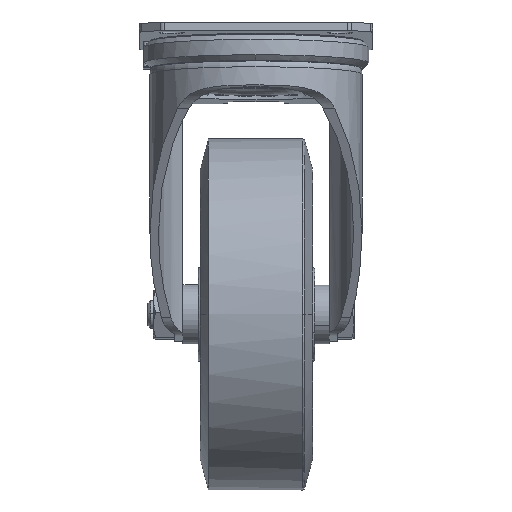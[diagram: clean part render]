
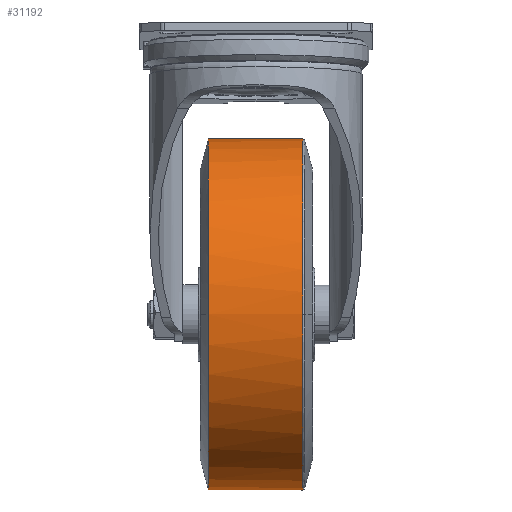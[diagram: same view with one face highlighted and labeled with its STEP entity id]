
A CAD part, front view. The second image highlights one B-rep face of the part: STEP entity #31192.
In plain terms, the highlighted cylindrical face has radius 62.5 mm (diameter 125 mm), a partial arc.
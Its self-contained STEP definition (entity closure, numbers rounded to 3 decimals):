
#654 = CARTESIAN_POINT ( 'NONE',  ( 103.239, 32.576, -105.767 ) ) ;
#683 = ORIENTED_EDGE ( 'NONE', *, *, #18647, .T. ) ;
#2452 = VERTEX_POINT ( 'NONE', #17990 ) ;
#2628 = VERTEX_POINT ( 'NONE', #29669 ) ;
#2682 = B_SPLINE_CURVE_WITH_KNOTS ( 'NONE', 3,
 ( #22656, #3312, #28177, #11650, #30926, #14420, #33686, #17200, #654, #19994, #3431, #22771, #6201, #25540, #8977, #28285, #11767, #31045 ),
 .UNSPECIFIED., .F., .F.,
 ( 4, 2, 2, 2, 2, 2, 2, 2, 4 ),
 ( 0., 0.125, 0.25, 0.375, 0.5, 0.625, 0.75, 0.875, 1. ),
 .UNSPECIFIED. ) ;
#3035 = CARTESIAN_POINT ( 'NONE',  ( 69.614, 73.877, -121.18 ) ) ;
#3312 = CARTESIAN_POINT ( 'NONE',  ( 103.239, 69.787, -121.18 ) ) ;
#3431 = CARTESIAN_POINT ( 'NONE',  ( 103.239, 24.183, -96.804 ) ) ;
#3560 = AXIS2_PLACEMENT_3D ( 'NONE', #26393, #9839, #12606 ) ;
#3623 = B_SPLINE_CURVE_WITH_KNOTS ( 'NONE', 3,
 ( #11895, #28427, #6454, #25784, #9210, #28538, #12006, #31274, #14786, #34043, #17563 ),
 .UNSPECIFIED., .F., .F.,
 ( 4, 1, 1, 1, 1, 1, 1, 1, 4 ),
 ( 0., 0.125, 0.25, 0.375, 0.5, 0.625, 0.75, 0.875, 1. ),
 .UNSPECIFIED. ) ;
#5596 = CARTESIAN_POINT ( 'NONE',  ( 103.239, 73.877, -121.18 ) ) ;
#5701 = VERTEX_POINT ( 'NONE', #3035 ) ;
#5994 = DIRECTION ( 'NONE',  ( -1., 0., 0. ) ) ;
#6201 = CARTESIAN_POINT ( 'NONE',  ( 103.239, 17.7, -86.377 ) ) ;
#6454 = CARTESIAN_POINT ( 'NONE',  ( 103.239, 61.606, 3.014 ) ) ;
#8977 = CARTESIAN_POINT ( 'NONE',  ( 103.239, 13.376, -74.885 ) ) ;
#9210 = CARTESIAN_POINT ( 'NONE',  ( 103.239, 38.93, -6.378 ) ) ;
#9411 = ORIENTED_EDGE ( 'NONE', *, *, #24684, .F. ) ;
#9839 = DIRECTION ( 'NONE',  ( -1., 0., 0. ) ) ;
#11185 = VECTOR ( 'NONE', #13179, 1000. ) ;
#11427 = CARTESIAN_POINT ( 'NONE',  ( 103.239, 73.877, -121.18 ) ) ;
#11650 = CARTESIAN_POINT ( 'NONE',  ( 103.239, 57.672, -119.181 ) ) ;
#11767 = CARTESIAN_POINT ( 'NONE',  ( 103.239, 11.377, -62.771 ) ) ;
#11895 = CARTESIAN_POINT ( 'NONE',  ( 103.239, 73.877, 3.82 ) ) ;
#12006 = CARTESIAN_POINT ( 'NONE',  ( 103.239, 21.576, -23.733 ) ) ;
#12606 = DIRECTION ( 'NONE',  ( 0., 0., 1. ) ) ;
#12795 = CYLINDRICAL_SURFACE ( 'NONE', #3560, 62.5 ) ;
#12978 = ORIENTED_EDGE ( 'NONE', *, *, #24231, .T. ) ;
#13179 = DIRECTION ( 'NONE',  ( -1., 0., 0. ) ) ;
#14103 = EDGE_LOOP ( 'NONE', ( #9411, #683, #33854, #16386, #12978 ) ) ;
#14178 = VERTEX_POINT ( 'NONE', #28618 ) ;
#14420 = CARTESIAN_POINT ( 'NONE',  ( 103.239, 46.18, -114.857 ) ) ;
#14786 = CARTESIAN_POINT ( 'NONE',  ( 103.239, 12.183, -46.408 ) ) ;
#16046 = DIRECTION ( 'NONE',  ( 1., 0., 0. ) ) ;
#16386 = ORIENTED_EDGE ( 'NONE', *, *, #20486, .T. ) ;
#16638 = VECTOR ( 'NONE', #5994, 1000. ) ;
#17200 = CARTESIAN_POINT ( 'NONE',  ( 103.239, 35.753, -108.374 ) ) ;
#17366 = AXIS2_PLACEMENT_3D ( 'NONE', #32540, #16046, #35326 ) ;
#17563 = CARTESIAN_POINT ( 'NONE',  ( 103.239, 11.377, -58.68 ) ) ;
#17990 = CARTESIAN_POINT ( 'NONE',  ( 103.239, 11.377, -58.68 ) ) ;
#18647 = EDGE_CURVE ( 'NONE', #31762, #2452, #2682, .T. ) ;
#19994 = CARTESIAN_POINT ( 'NONE',  ( 103.239, 26.791, -99.982 ) ) ;
#20486 = EDGE_CURVE ( 'NONE', #14178, #2628, #34015, .T. ) ;
#20983 = CIRCLE ( 'NONE', #17366, 62.5 ) ;
#21054 = FACE_OUTER_BOUND ( 'NONE', #14103, .T. ) ;
#22656 = CARTESIAN_POINT ( 'NONE',  ( 103.239, 73.877, -121.18 ) ) ;
#22771 = CARTESIAN_POINT ( 'NONE',  ( 103.239, 19.638, -90.002 ) ) ;
#23992 = LINE ( 'NONE', #11427, #16638 ) ;
#24231 = EDGE_CURVE ( 'NONE', #2628, #5701, #20983, .T. ) ;
#24684 = EDGE_CURVE ( 'NONE', #31762, #5701, #23992, .T. ) ;
#24923 = EDGE_CURVE ( 'NONE', #14178, #2452, #3623, .T. ) ;
#25540 = CARTESIAN_POINT ( 'NONE',  ( 103.239, 14.57, -78.819 ) ) ;
#25784 = CARTESIAN_POINT ( 'NONE',  ( 103.239, 49.806, -0.565 ) ) ;
#26393 = CARTESIAN_POINT ( 'NONE',  ( 103.239, 73.877, -58.68 ) ) ;
#28177 = CARTESIAN_POINT ( 'NONE',  ( 103.239, 65.696, -120.777 ) ) ;
#28285 = CARTESIAN_POINT ( 'NONE',  ( 103.239, 11.78, -66.861 ) ) ;
#28427 = CARTESIAN_POINT ( 'NONE',  ( 103.239, 69.787, 3.82 ) ) ;
#28538 = CARTESIAN_POINT ( 'NONE',  ( 103.239, 29.398, -14.201 ) ) ;
#28618 = CARTESIAN_POINT ( 'NONE',  ( 103.239, 73.877, 3.82 ) ) ;
#29669 = CARTESIAN_POINT ( 'NONE',  ( 69.614, 73.877, 3.82 ) ) ;
#30926 = CARTESIAN_POINT ( 'NONE',  ( 103.239, 53.739, -117.988 ) ) ;
#31045 = CARTESIAN_POINT ( 'NONE',  ( 103.239, 11.377, -58.68 ) ) ;
#31192 = ADVANCED_FACE ( 'NONE', ( #21054 ), #12795, .T. ) ;
#31274 = CARTESIAN_POINT ( 'NONE',  ( 103.239, 15.763, -34.608 ) ) ;
#31762 = VERTEX_POINT ( 'NONE', #5596 ) ;
#32540 = CARTESIAN_POINT ( 'NONE',  ( 69.614, 73.877, -58.68 ) ) ;
#33686 = CARTESIAN_POINT ( 'NONE',  ( 103.239, 42.555, -112.92 ) ) ;
#33854 = ORIENTED_EDGE ( 'NONE', *, *, #24923, .F. ) ;
#34015 = LINE ( 'NONE', #35238, #11185 ) ;
#34043 = CARTESIAN_POINT ( 'NONE',  ( 103.239, 11.377, -54.589 ) ) ;
#35238 = CARTESIAN_POINT ( 'NONE',  ( 103.239, 73.877, 3.82 ) ) ;
#35326 = DIRECTION ( 'NONE',  ( 0., 0., 1. ) ) ;
